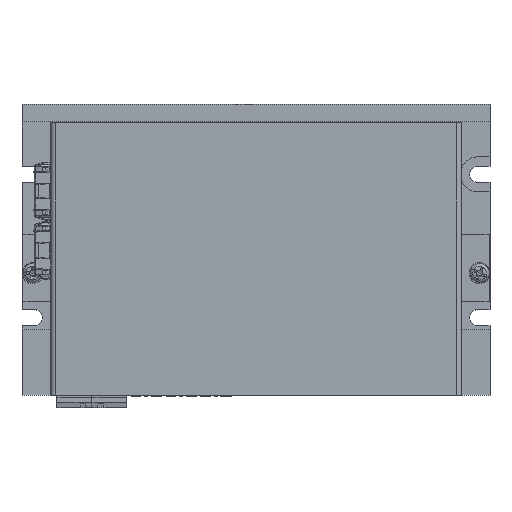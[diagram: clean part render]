
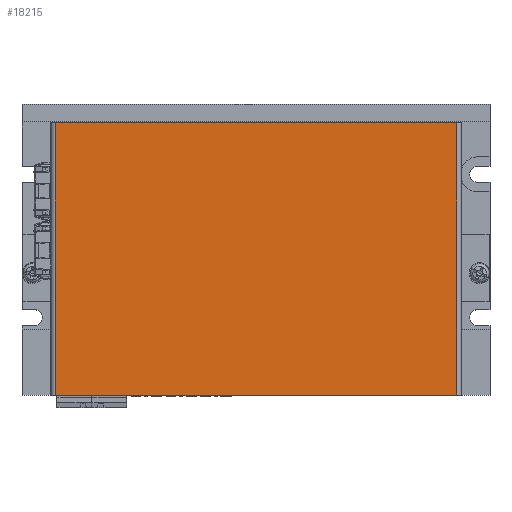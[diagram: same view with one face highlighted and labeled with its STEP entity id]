
A CAD part, top view. The second image highlights one B-rep face of the part: STEP entity #18215.
In plain terms, the highlighted planar face has unit normal (0, 0, 1).
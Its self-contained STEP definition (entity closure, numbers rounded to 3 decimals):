
#285 = VECTOR ( 'NONE', #10116, 1000. ) ;
#1694 = ORIENTED_EDGE ( 'NONE', *, *, #49587, .T. ) ;
#1815 = ORIENTED_EDGE ( 'NONE', *, *, #71958, .T. ) ;
#2490 = LINE ( 'NONE', #73084, #62885 ) ;
#8178 = AXIS2_PLACEMENT_3D ( 'NONE', #49557, #19514, #61676 ) ;
#9205 = VECTOR ( 'NONE', #16127, 1000. ) ;
#10116 = DIRECTION ( 'NONE',  ( 0., 1., 0. ) ) ;
#16127 = DIRECTION ( 'NONE',  ( -1., 0., 0. ) ) ;
#16130 = ORIENTED_EDGE ( 'NONE', *, *, #57807, .T. ) ;
#18215 = ADVANCED_FACE ( 'NONE', ( #66644 ), #55631, .T. ) ;
#19094 = DIRECTION ( 'NONE',  ( -1., 0., 0. ) ) ;
#19514 = DIRECTION ( 'NONE',  ( 0., 0., 1. ) ) ;
#20582 = VERTEX_POINT ( 'NONE', #78264 ) ;
#23981 = VERTEX_POINT ( 'NONE', #24823 ) ;
#24393 = VERTEX_POINT ( 'NONE', #58523 ) ;
#24823 = CARTESIAN_POINT ( 'NONE',  ( -1.2, 0., 0. ) ) ;
#26391 = CARTESIAN_POINT ( 'NONE',  ( -1.2, -78., 0. ) ) ;
#31195 = EDGE_LOOP ( 'NONE', ( #76734, #1694, #1815, #16130 ) ) ;
#32430 = LINE ( 'NONE', #52306, #285 ) ;
#42413 = DIRECTION ( 'NONE',  ( 0., -1., 0. ) ) ;
#49064 = LINE ( 'NONE', #54544, #77279 ) ;
#49557 = CARTESIAN_POINT ( 'NONE',  ( 0., 0., 0. ) ) ;
#49587 = EDGE_CURVE ( 'NONE', #74522, #23981, #32430, .T. ) ;
#52306 = CARTESIAN_POINT ( 'NONE',  ( -1.2, 0., 0. ) ) ;
#54544 = CARTESIAN_POINT ( 'NONE',  ( -116.3, 0., 0. ) ) ;
#55631 = PLANE ( 'NONE',  #8178 ) ;
#57807 = EDGE_CURVE ( 'NONE', #20582, #24393, #49064, .T. ) ;
#58523 = CARTESIAN_POINT ( 'NONE',  ( -116.3, -78., 0. ) ) ;
#61676 = DIRECTION ( 'NONE',  ( 1., 0., 0. ) ) ;
#62885 = VECTOR ( 'NONE', #19094, 1000. ) ;
#64709 = EDGE_CURVE ( 'NONE', #74522, #24393, #75152, .T. ) ;
#66644 = FACE_OUTER_BOUND ( 'NONE', #31195, .T. ) ;
#71958 = EDGE_CURVE ( 'NONE', #23981, #20582, #2490, .T. ) ;
#73084 = CARTESIAN_POINT ( 'NONE',  ( 0., 0., 0. ) ) ;
#74522 = VERTEX_POINT ( 'NONE', #26391 ) ;
#75152 = LINE ( 'NONE', #76163, #9205 ) ;
#76163 = CARTESIAN_POINT ( 'NONE',  ( 0., -78., 0. ) ) ;
#76734 = ORIENTED_EDGE ( 'NONE', *, *, #64709, .F. ) ;
#77279 = VECTOR ( 'NONE', #42413, 1000. ) ;
#78264 = CARTESIAN_POINT ( 'NONE',  ( -116.3, 0., 0. ) ) ;
